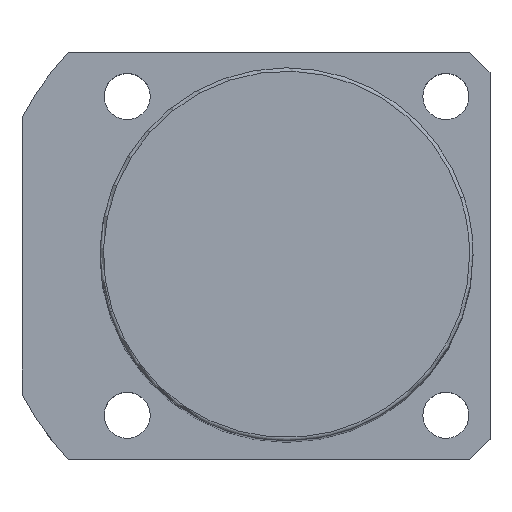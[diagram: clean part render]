
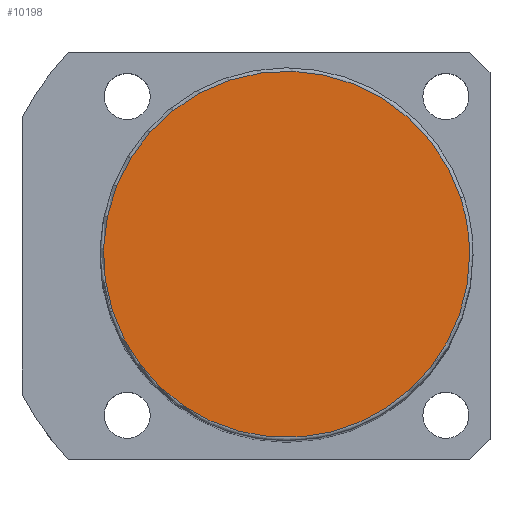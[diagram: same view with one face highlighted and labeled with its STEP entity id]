
A CAD part, top view. The second image highlights one B-rep face of the part: STEP entity #10198.
In plain terms, the highlighted planar face has unit normal (0, 0, 1).
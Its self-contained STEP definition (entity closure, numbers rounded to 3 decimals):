
#10164=CARTESIAN_POINT('',(27.0,0.0,141.0));
#10165=VERTEX_POINT('',#10164);
#10166=CARTESIAN_POINT('',(25.679,8.343,141.0));
#10167=VERTEX_POINT('',#10166);
#10168=CARTESIAN_POINT('',(0.0,0.0,141.0));
#10169=DIRECTION('',(0.0,0.0,1.0));
#10170=DIRECTION('',(1.0,0.0,0.0));
#10171=AXIS2_PLACEMENT_3D('',#10168,#10169,#10170);
#10172=CIRCLE('',#10171,27.0);
#10173=EDGE_CURVE('no 4612',#10165,#10167,#10172,.T.);
#10174=ORIENTED_EDGE('',*,*,#10173,.T.);
#10175=CARTESIAN_POINT('',(-25.679,-8.343,141.0));
#10176=VERTEX_POINT('',#10175);
#10177=CARTESIAN_POINT('',(0.0,0.0,141.0));
#10178=DIRECTION('',(0.0,0.0,1.0));
#10179=DIRECTION('',(1.0,0.0,0.0));
#10180=AXIS2_PLACEMENT_3D('',#10177,#10178,#10179);
#10181=CIRCLE('',#10180,27.0);
#10182=EDGE_CURVE('no 4618',#10167,#10176,#10181,.T.);
#10183=ORIENTED_EDGE('',*,*,#10182,.T.);
#10184=CARTESIAN_POINT('',(0.0,0.0,141.0));
#10185=DIRECTION('',(0.0,0.0,1.0));
#10186=DIRECTION('',(1.0,0.0,0.0));
#10187=AXIS2_PLACEMENT_3D('',#10184,#10185,#10186);
#10188=CIRCLE('',#10187,27.0);
#10189=EDGE_CURVE('no 4622',#10176,#10165,#10188,.T.);
#10190=ORIENTED_EDGE('',*,*,#10189,.T.);
#10191=EDGE_LOOP('',(#10174,#10183,#10190));
#10192=FACE_OUTER_BOUND('',#10191,.T.);
#10193=CARTESIAN_POINT('',(0.0,0.0,141.0));
#10194=DIRECTION('',(0.0,0.0,1.0));
#10195=DIRECTION('',(1.0,0.0,0.0));
#10196=AXIS2_PLACEMENT_3D('',#10193,#10194,#10195);
#10197=PLANE('',#10196);
#10198=ADVANCED_FACE('no 4603',(#10192),#10197,.T.);
